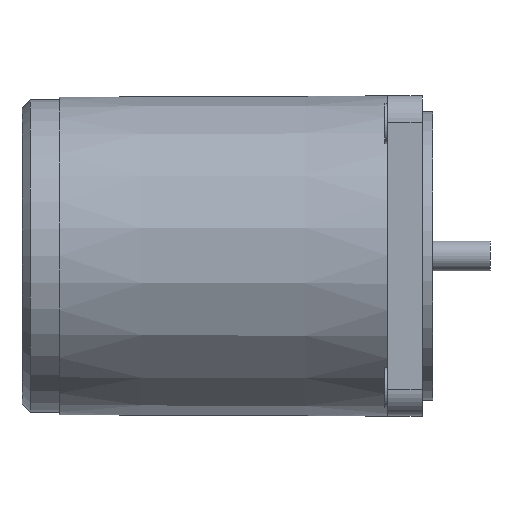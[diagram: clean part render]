
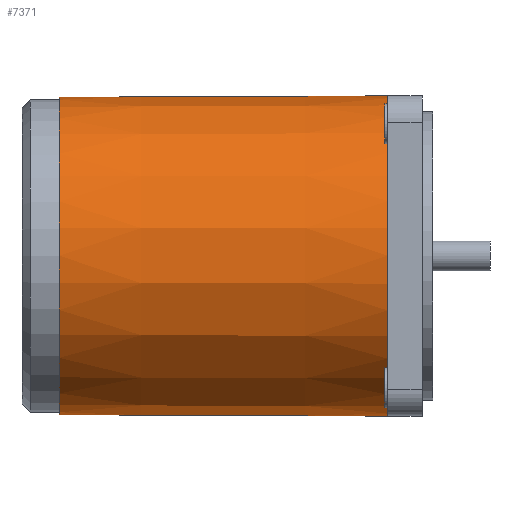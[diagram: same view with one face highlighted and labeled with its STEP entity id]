
A CAD part, top view. The second image highlights one B-rep face of the part: STEP entity #7371.
In plain terms, the highlighted conical face has half-angle 0.233 degrees and reference radius 29.875 mm.
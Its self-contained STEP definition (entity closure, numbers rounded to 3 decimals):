
#5546=CARTESIAN_POINT('',(68.5,21.782,-20.628));
#5547=VERTEX_POINT('',#5546);
#5548=CARTESIAN_POINT('',(68.5,30.,0.));
#5549=VERTEX_POINT('',#5548);
#5550=CARTESIAN_POINT('',(68.5,0.,0.0));
#5551=DIRECTION('',(1.0,0.0,0.0));
#5552=DIRECTION('',(0.0,1.0,0.0));
#5553=AXIS2_PLACEMENT_3D('',#5550,#5551,#5552);
#5554=CIRCLE('',#5553,30.0);
#5555=EDGE_CURVE('',#5547,#5549,#5554,.T.);
#5630=CARTESIAN_POINT('',(68.5,0.,30.));
#5631=VERTEX_POINT('',#5630);
#5632=CARTESIAN_POINT('',(68.5,0.,0.0));
#5633=DIRECTION('',(1.0,0.0,0.0));
#5634=DIRECTION('',(0.0,1.0,0.0));
#5635=AXIS2_PLACEMENT_3D('',#5632,#5633,#5634);
#5636=CIRCLE('',#5635,30.0);
#5637=EDGE_CURVE('',#5549,#5631,#5636,.T.);
#5681=CARTESIAN_POINT('',(68.5,-30.,0.));
#5682=VERTEX_POINT('',#5681);
#5683=CARTESIAN_POINT('',(68.5,-21.782,-20.628));
#5684=VERTEX_POINT('',#5683);
#5685=CARTESIAN_POINT('',(68.5,0.,0.0));
#5686=DIRECTION('',(1.0,0.0,0.0));
#5687=DIRECTION('',(0.0,1.0,0.0));
#5688=AXIS2_PLACEMENT_3D('',#5685,#5686,#5687);
#5689=CIRCLE('',#5688,30.0);
#5690=EDGE_CURVE('',#5682,#5684,#5689,.T.);
#6488=CARTESIAN_POINT('',(68.5,0.,0.0));
#6489=DIRECTION('',(1.0,0.0,0.0));
#6490=DIRECTION('',(0.0,1.0,0.0));
#6491=AXIS2_PLACEMENT_3D('',#6488,#6489,#6490);
#6492=CIRCLE('',#6491,30.0);
#6493=EDGE_CURVE('',#5631,#5682,#6492,.T.);
#6988=CARTESIAN_POINT('',(26.5,-21.289,-20.894));
#6989=VERTEX_POINT('',#6988);
#6999=CARTESIAN_POINT('',(26.5,21.289,-20.894));
#7000=VERTEX_POINT('',#6999);
#7001=CARTESIAN_POINT('',(26.5,0.,0.0));
#7002=DIRECTION('',(-1.0,0.0,0.0));
#7003=DIRECTION('',(0.0,1.0,0.0));
#7004=AXIS2_PLACEMENT_3D('',#7001,#7002,#7003);
#7005=CIRCLE('',#7004,29.829);
#7006=EDGE_CURVE('',#7000,#6989,#7005,.T.);
#7201=CARTESIAN_POINT('',(26.5,21.769,-20.393));
#7202=VERTEX_POINT('',#7201);
#7203=CARTESIAN_POINT('',(26.5,0.,0.0));
#7204=DIRECTION('',(-1.0,0.0,0.0));
#7205=DIRECTION('',(0.0,1.0,0.0));
#7206=AXIS2_PLACEMENT_3D('',#7203,#7204,#7205);
#7207=CIRCLE('',#7206,29.829);
#7208=EDGE_CURVE('',#7202,#7000,#7207,.T.);
#7210=CARTESIAN_POINT('',(68.5,21.782,-20.628));
#7211=CARTESIAN_POINT('',(47.386,21.776,-20.51));
#7212=CARTESIAN_POINT('',(26.5,21.769,-20.393));
#7220=(BOUNDED_CURVE()B_SPLINE_CURVE(2,(#7210,#7211,#7212),.UNSPECIFIED.,.F.,.U.)B_SPLINE_CURVE_WITH_KNOTS((3,3),(0.0,4.2),.UNSPECIFIED.)CURVE()GEOMETRIC_REPRESENTATION_ITEM()RATIONAL_B_SPLINE_CURVE((1.0,1.,1.0))REPRESENTATION_ITEM(''));
#7221=EDGE_CURVE('',#5547,#7202,#7220,.T.);
#7318=CARTESIAN_POINT('',(26.5,-21.769,-20.393));
#7319=VERTEX_POINT('',#7318);
#7320=CARTESIAN_POINT('',(26.5,-21.769,-20.393));
#7321=CARTESIAN_POINT('',(47.386,-21.776,-20.51));
#7322=CARTESIAN_POINT('',(68.5,-21.782,-20.628));
#7330=(BOUNDED_CURVE()B_SPLINE_CURVE(2,(#7320,#7321,#7322),.UNSPECIFIED.,.F.,.U.)B_SPLINE_CURVE_WITH_KNOTS((3,3),(0.0,4.2),.UNSPECIFIED.)CURVE()GEOMETRIC_REPRESENTATION_ITEM()RATIONAL_B_SPLINE_CURVE((1.0,1.,1.0))REPRESENTATION_ITEM(''));
#7331=EDGE_CURVE('',#7319,#5684,#7330,.T.);
#7333=CARTESIAN_POINT('',(26.5,0.,0.0));
#7334=DIRECTION('',(-1.0,0.0,0.0));
#7335=DIRECTION('',(0.0,1.0,0.0));
#7336=AXIS2_PLACEMENT_3D('',#7333,#7334,#7335);
#7337=CIRCLE('',#7336,29.829);
#7338=EDGE_CURVE('',#6989,#7319,#7337,.T.);
#7344=CARTESIAN_POINT('',(37.75,0.,0.0));
#7345=DIRECTION('',(1.0,0.,0.0));
#7346=DIRECTION('',(0.0,1.0,0.0));
#7347=AXIS2_PLACEMENT_3D('',#7344,#7345,#7346);
#7348=CONICAL_SURFACE('',#7347,29.875,0.233);
#7349=CARTESIAN_POINT('',(7.,29.75,0.0));
#7350=VERTEX_POINT('',#7349);
#7351=CARTESIAN_POINT('',(7.,0.,0.0));
#7352=DIRECTION('',(1.0,0.0,0.0));
#7353=DIRECTION('',(0.0,1.0,0.0));
#7354=AXIS2_PLACEMENT_3D('',#7351,#7352,#7353);
#7355=CIRCLE('',#7354,29.75);
#7356=EDGE_CURVE('',#7350,#7350,#7355,.T.);
#7357=ORIENTED_EDGE('',*,*,#7356,.T.);
#7358=EDGE_LOOP('',(#7357));
#7359=FACE_OUTER_BOUND('',#7358,.T.);
#7360=ORIENTED_EDGE('',*,*,#7221,.T.);
#7361=ORIENTED_EDGE('',*,*,#7208,.T.);
#7362=ORIENTED_EDGE('',*,*,#7006,.T.);
#7363=ORIENTED_EDGE('',*,*,#7338,.T.);
#7364=ORIENTED_EDGE('',*,*,#7331,.T.);
#7365=ORIENTED_EDGE('',*,*,#5690,.F.);
#7366=ORIENTED_EDGE('',*,*,#6493,.F.);
#7367=ORIENTED_EDGE('',*,*,#5637,.F.);
#7368=ORIENTED_EDGE('',*,*,#5555,.F.);
#7369=EDGE_LOOP('',(#7360,#7361,#7362,#7363,#7364,#7365,#7366,#7367,#7368));
#7370=FACE_BOUND('',#7369,.T.);
#7371=ADVANCED_FACE('',(#7359,#7370),#7348,.T.);
